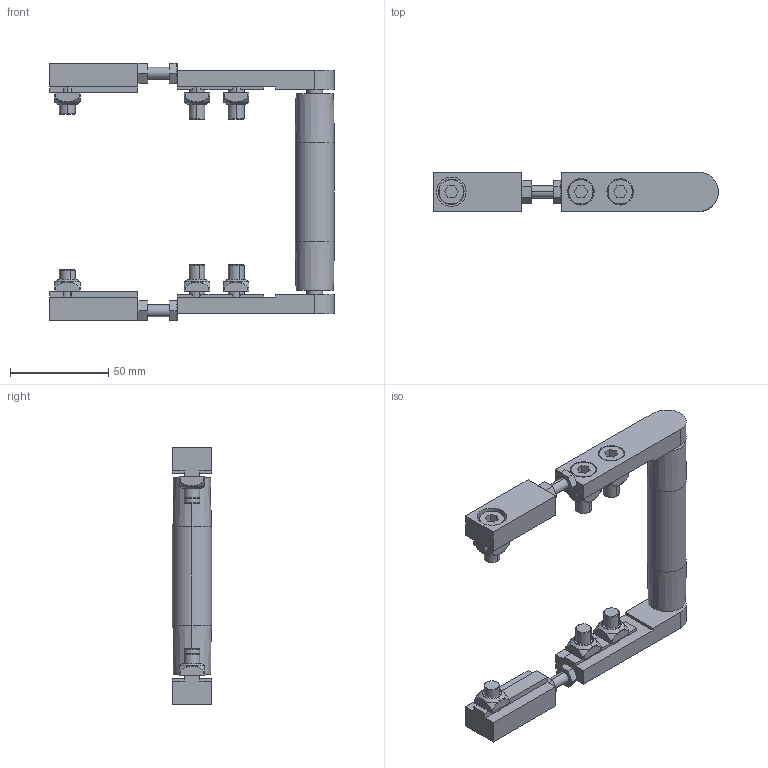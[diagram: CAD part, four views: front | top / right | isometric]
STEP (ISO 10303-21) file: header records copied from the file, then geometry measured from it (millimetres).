
FILE_DESCRIPTION (( 'STEP AP214' ), '1' );
FILE_NAME ('084.020.KI.080.STEP', '2021-02-05T13:52:27', ( '' ), ( '' ), 'SwSTEP 2.0', 'SolidWorks 2018', '' );
FILE_SCHEMA (( 'AUTOMOTIVE_DESIGN' ));
Length unit declared in the file: millimetre
Products named in the file (10): 084.301.000 VITI ALUSIC_084.301.003; 084.020.KI.080; 084.800.008; 084.800.007; 084.800.002; 084.800.012; Circlip DIN 471 - 8 x 0.8_Circlip DIN 471 - 8 x 0.8; 084.802.008; 084.302.000 DADI ALUSIC 13x13-1_084.302.004; 084.800.031
Assembly tree (27 placements, depth 2):
  084.020.KI.080
    084.802.008  x2
    084.301.000 VITI ALUSIC_084.301.003  x6
    084.302.000 DADI ALUSIC 13x13-1_084.302.004  x6
    084.800.031
    084.800.012  x4
    084.800.008  x2
    084.800.002  x2
    084.800.007  x2
    Circlip DIN 471 - 8 x 0.8_Circlip DIN 471 - 8 x 0.8  x2
Bounding box: 145 x 20 x 131 mm (x, y, z)
Volume: 80847.2 mm3; surface area: 53215.6 mm2
Topology: 31 solids, 31 shells, 664 faces, 1564 edges, 998 vertices
Faces by surface type: plane 262, cylinder 210, torus 112, cone 56, bspline 24
Entity records: 7452 total; most frequent: CARTESIAN_POINT 1561, DIRECTION 1208, ORIENTED_EDGE 1048, EDGE_CURVE 524, AXIS2_PLACEMENT_3D 474, VERTEX_POINT 337, VECTOR 260, LINE 260
